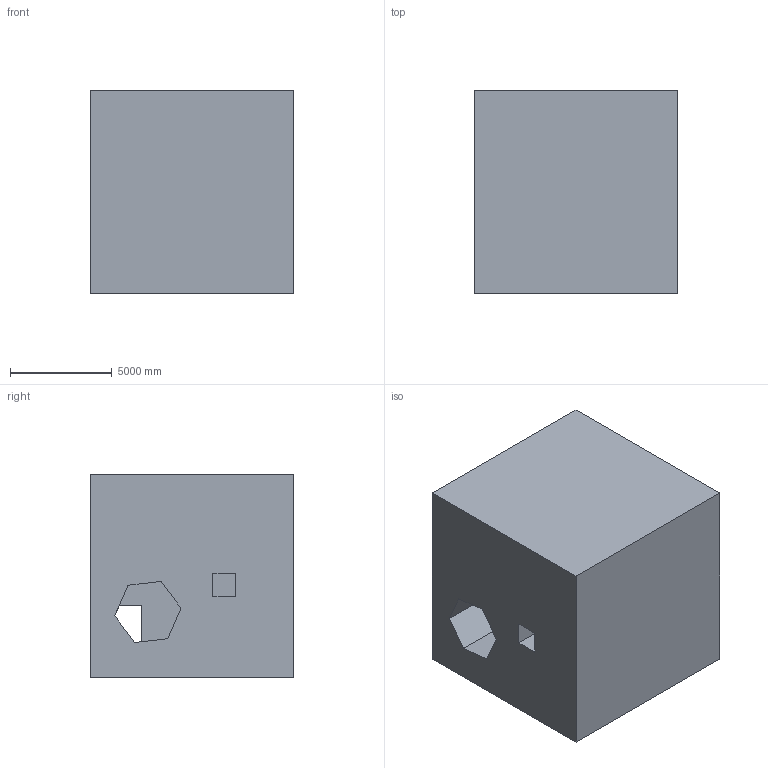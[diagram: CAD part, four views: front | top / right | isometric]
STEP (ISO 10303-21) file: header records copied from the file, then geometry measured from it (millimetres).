
FILE_DESCRIPTION (( 'STEP AP203' ), '1' );
FILE_NAME ('208.STEP', '2022-07-28T13:54:30', ( 'user' ), ( '' ), 'SwSTEP 2.0', 'SolidWorks 2021', '' );
FILE_SCHEMA (( 'CONFIG_CONTROL_DESIGN' ));
Length unit declared in the file: centimetre
Products named in the file (1): 208
Bounding box: 10000 x 10000 x 10000 mm (x, y, z)
Volume: 903047436633.4 mm3; surface area: 693505224.1 mm2
Topology: 1 solids, 1 shells, 21 faces, 57 edges, 38 vertices
Faces by surface type: plane 21
Entity records: 732 total; most frequent: CARTESIAN_POINT 117, ORIENTED_EDGE 114, DIRECTION 101, LINE 57, EDGE_CURVE 57, VECTOR 57, VERTEX_POINT 38, EDGE_LOOP 23
